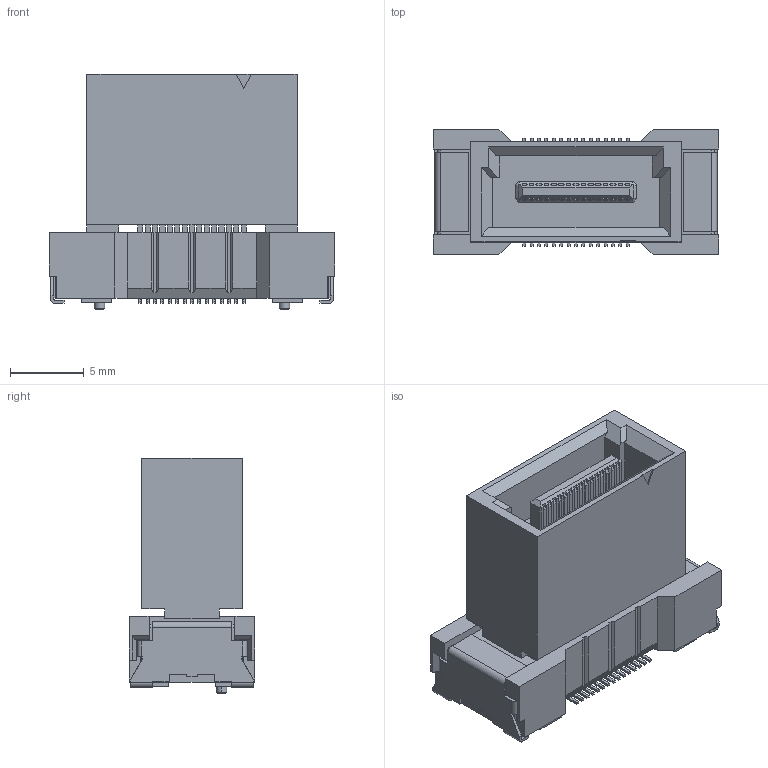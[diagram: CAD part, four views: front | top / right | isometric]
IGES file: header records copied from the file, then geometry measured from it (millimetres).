
Start section: Elysium IGES Interface
Global section: file name: 146HG:\その他\DT関連\【59期以前】\DT_CADﾃﾞｰﾀ\DT_3DCAD\DT0□\FS-10\60-36-0113_WEBサイトアップロード用\ボス有り_DT01-XXXFS-10\P3E104_DT01-030FS-10-T.igs; native system: Creo Elements/Direct Modeling 20.4A  18-Oct-2021; preprocessor: Creo Element/Direct IGES_3D V2.2; author: Unknown; organization: Unknown; date: 20220225.172712; units: millimetre
Bounding box: 19.3 x 8.5 x 15.95 mm (x, y, z)
Volume: 1444.9 mm3; surface area: 1459.4 mm2
Topology: 1 solids, 1 shells, 1037 faces, 2913 edges, 1910 vertices
Faces by surface type: bspline 1037
